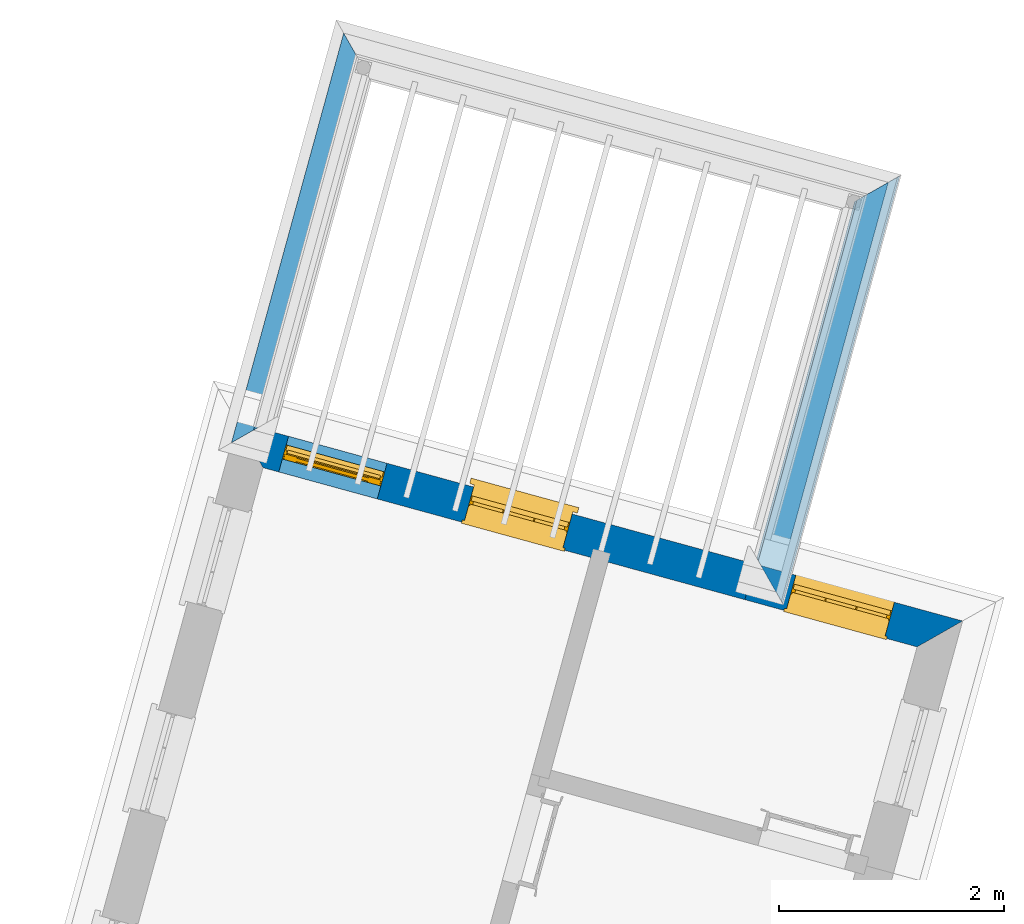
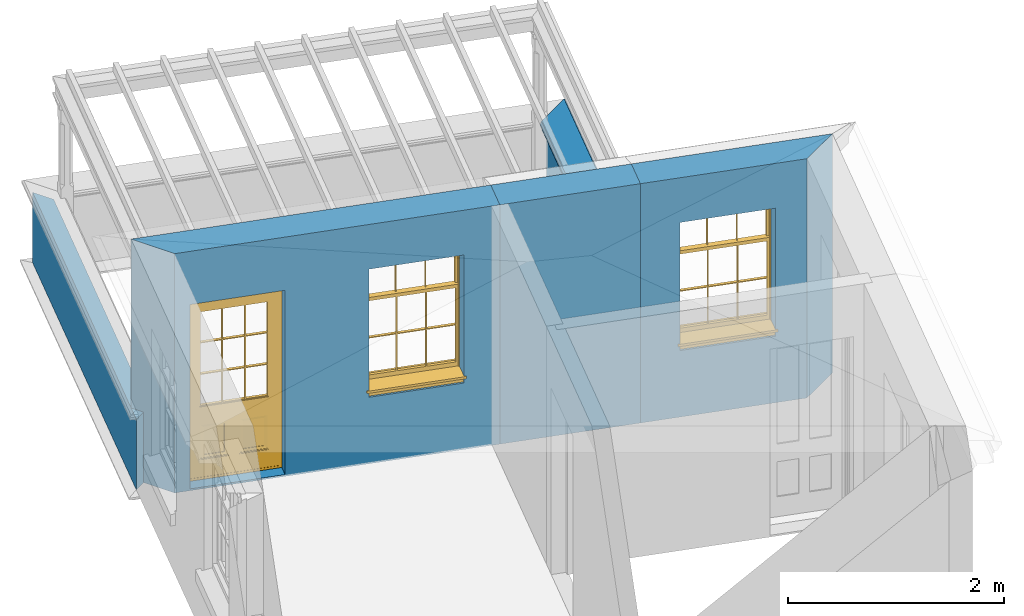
# One storey, part 3 of 4: 6 walls, 2 windows, 1 door, 3 openings.
"""IFC4 building model written with IfcOpenShell, lengths in metres."""

from ifc_helpers import new_model, si_unit, frame, origin, origin_with_axes, place, context, subcontext, project, spatial, polyline, outline, extrude, clip, halfspace, faceted_brep, source, transform, mapped, material, layer, layer_set, layer_usage, material_profile, profile_set, profile_usage, type_object, type_shapes, element, fill, save


model = new_model("IFC4")

# Units and contexts
model_context = context("Model", 3, world=origin_with_axes())
body_context = subcontext(model_context, "Body", "Model", "MODEL_VIEW")
ifc_project = project(units=[si_unit("PLANEANGLEUNIT", "RADIAN"), si_unit("MASSUNIT", "GRAM", prefix="KILO"), si_unit("FORCEUNIT", "NEWTON", prefix="KILO"), si_unit("LENGTHUNIT", "METRE"), si_unit("AREAUNIT", "SQUARE_METRE"), si_unit("VOLUMEUNIT", "CUBIC_METRE")], contexts=[model_context, model_context])

# Sites, building, storey
site_1_placement = place(None, origin_with_axes())
site_1 = spatial("IfcSite", under=ifc_project, at=site_1_placement, Name="Tamar")
site_2_placement = place(site_1_placement, origin_with_axes())
site_2 = spatial("IfcSite", under=site_1, at=site_2_placement, Name="Site plot-28", CompositionType="ELEMENT")
building_placement = place(None, origin_with_axes())
building = spatial("IfcBuilding", under=site_2, at=building_placement, Name="Building plot-28", CompositionType="ELEMENT")
storey_placement = place(None, frame((0.0, 0.0, 29.85), z_axis=(0.0, 0.0, 1.0), x_axis=(1.0, 0.0, 0.0)))
storey = spatial("IfcBuildingStorey", under=building, at=storey_placement, Name="plot-28 2", CompositionType="ELEMENT", Elevation=29.85)

# Wall, opening, window
ifc_material = material(Name="Masonry")
ifc_layer = layer(ifc_material, 0.33, ventilated=False)
ifc_layer_set = layer_set([ifc_layer], Name="exterior_0.08_0.25")
ifc_layer_usage = layer_usage(ifc_layer_set, "AXIS2", "POSITIVE", -0.25)
wall_type_1 = type_object("IfcWallType", Name="exterior_0.08_0.25", PredefinedType="SOLIDWALL", material=ifc_layer_set)
wall_1_placement = place(storey_placement, frame((266.580114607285, 263.559173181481, 0.0), z_axis=(0.0, 0.0, 1.0), x_axis=(-0.964452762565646, 0.264255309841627, 0.0)))
wall_1 = element("IfcWall", 1, at=wall_1_placement, inside=storey, type_object=wall_type_1, material=ifc_layer_usage, Name="exterior", context=body_context, shape_type="SweptSolid", body=[
    extrude(outline(polyline([(0.0799999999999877, 0.0800000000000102), (-0.24999999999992, -0.25000000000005), (1.67093948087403, -0.24999999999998), (1.67093948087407, 0.0799999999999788), (0.0799999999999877, 0.0800000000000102)])), origin_with_axes(), (0.0, 0.0, 1.0), 2.7),
])
opening_1_placement = place(wall_1_placement, frame((0.380469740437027, 0.0, 0.75)))
opening_1 = element("IfcOpeningElement", 2, at=opening_1_placement, cuts=wall_1, Name="My Opening", ObjectType="Opening", context=body_context, shape_type="SweptSolid", body=[
    extrude(outline(polyline([(0.0, -0.270000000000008), (0.909999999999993, -0.270000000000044), (0.910000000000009, 1.10000000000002), (1.63202784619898e-14, 1.10000000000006), (0.0, -0.270000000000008)])), origin_with_axes(), (0.0, 0.0, 1.0), 1.445),
])
window_type = type_object("IfcWindowType", Name="sash_shorter", PartitioningType="DOUBLE_PANEL_HORIZONTAL", PredefinedType="NOTDEFINED")
shared_shape_1 = source(origin(), body_context, "Body", "Brep", [
    faceted_brep([(0.876875, 0.145, 0.999097), (0.876875, 0.145, 1.411875), (0.9, 0.145, 1.435), (0.033125, 0.145, 1.411875), (0.033125, 0.145, 0.999097), (0.01, 0.145, 1.435), (0.033125, 0.115, 1.411875), (0.01, 0.115, 1.435), (0.033125, 0.115, 0.999097), (0.876875, 0.115, 1.411875), (0.876875, 0.115, 0.999097), (0.9, 0.115, 1.435), (0.033125, 0.145, 0.960972), (0.01, 0.145, 0.960972), (0.033125, 0.145, 0.548195), (0.876875, 0.145, 0.960972), (0.876875, 0.145, 0.548195), (0.9, 0.145, 0.960972), (0.876875, 0.145, 0.538195), (0.876875, 0.145, 0.125417), (0.9, 0.145, 0.077167), (0.033125, 0.145, 0.125417), (0.033125, 0.145, 0.538195), (0.01, 0.145, 0.077167), (0.9, 0.115, 0.960972), (0.01, 0.115, 0.960972), (-0.0425, 0.0, 0.01), (-0.0425, -0.05, 0.001667), (0.0, 0.0, 0.01), (0.9525, 0.0, 0.01), (0.91, 0.0, 0.01), (0.9525, -0.05, 0.001667), (-0.02, 0.33, 0.077167), (0.0, 0.33, 0.077167), (-0.02, 0.36, 0.077167), (0.0, 0.19, 0.077167), (0.01, 0.19, 0.077167), (0.91, 0.19, 0.077167), (0.91, 0.33, 0.077167), (0.9, 0.19, 0.077167), (0.93, 0.33, 0.077167), (0.93, 0.36, 0.077167), (0.01, 0.145, 0.999097), (0.01, 0.175, 0.999097), (0.9, 0.145, 0.999097), (0.9, 0.175, 0.999097), (0.876875, 0.175, 0.125417), (0.876875, 0.175, 0.538195), (0.9, 0.175, 0.077167), (0.876875, 0.175, 0.548195), (0.876875, 0.175, 0.960972), (0.033125, 0.175, 0.125417), (0.01, 0.175, 0.077167), (0.033125, 0.175, 0.538195), (0.033125, 0.175, 0.960972), (0.033125, 0.175, 0.548195), (-0.02, 0.33, 0.052167), (-0.02, 0.36, 0.052167), (0.93, 0.36, 0.052167), (0.93, 0.33, 0.052167), (0.91, 0.33, 0.052167), (0.0, 0.33, 0.052167), (0.91, 0.1, 0.026667), (0.0, 0.1, 0.026667), (-0.0425, -0.05, -0.123333), (0.9525, -0.05, -0.123333), (-0.0425, 0.0, -0.123333), (0.9525, 0.0, -0.123333), (0.01, 0.19, 1.435), (0.9, 0.19, 1.435), (0.0, 0.19, 1.445), (0.91, 0.19, 1.445), (0.01, 0.1, 0.077167), (0.9, 0.1, 0.077167), (0.592292, 0.145, 0.125417), (0.592292, 0.175, 0.125417), (0.317708, 0.175, 0.125417), (0.317708, 0.145, 0.125417), (0.592292, 0.145, 0.548195), (0.317708, 0.145, 0.548195), (0.317708, 0.145, 0.538195), (0.592292, 0.145, 0.538195), (0.592292, 0.175, 0.548195), (0.317708, 0.175, 0.548195), (0.602292, 0.175, 0.548195), (0.602292, 0.145, 0.548195), (0.317708, 0.175, 0.538195), (0.307708, 0.175, 0.125417), (0.307708, 0.175, 0.538195), (0.602292, 0.175, 0.538195), (0.602292, 0.175, 0.125417), (0.592292, 0.175, 0.538195), (0.307708, 0.175, 0.548195), (0.317708, 0.175, 0.960972), (0.307708, 0.175, 0.960972), (0.602292, 0.175, 0.960972), (0.592292, 0.175, 0.960972), (0.307708, 0.145, 0.538195), (0.307708, 0.145, 0.125417), (0.307708, 0.145, 0.548195), (0.307708, 0.145, 0.960972), (0.592292, 0.145, 0.960972), (0.317708, 0.145, 0.960972), (0.602292, 0.145, 0.960972), (0.602292, 0.145, 0.538195), (0.602292, 0.145, 0.125417), (0.317708, 0.115, 1.411875), (0.307708, 0.115, 1.411875), (0.307708, 0.115, 0.999097), (0.317708, 0.115, 0.999097), (0.602292, 0.115, 1.411875), (0.592292, 0.115, 1.411875), (0.592292, 0.115, 0.999097), (0.602292, 0.115, 0.999097), (0.317708, 0.145, 0.999097), (0.307708, 0.145, 0.999097), (0.307708, 0.145, 1.411875), (0.317708, 0.145, 1.411875), (0.602292, 0.145, 0.999097), (0.592292, 0.145, 0.999097), (0.592292, 0.145, 1.411875), (0.602292, 0.145, 1.411875), (0.91, 0.1, 1.445), (0.9, 0.1, 1.435), (0.01, 0.1, 1.435), (0.0, 0.1, 1.445), (0.91, 0.0, 0.0), (0.0, 0.0, 0.0), (0.91, 0.33, 0.0), (0.0, 0.33, 0.0)], [[[0, 1, 2]], [[3, 4, 5]], [[6, 7, 8]], [[9, 10, 11]], [[12, 13, 14]], [[15, 16, 17]], [[18, 19, 20]], [[21, 22, 23]], [[24, 15, 17]], [[13, 12, 25]], [[26, 27, 28]], [[29, 30, 31]], [[32, 33, 34]], [[35, 36, 33]], [[37, 38, 39]], [[40, 41, 38]], [[42, 4, 43]], [[44, 45, 0]], [[46, 47, 48]], [[49, 50, 45]], [[51, 52, 53]], [[54, 55, 43]], [[38, 33, 36, 39]], [[41, 34, 33, 38]], [[56, 32, 34, 57]], [[57, 34, 41, 58]], [[58, 41, 40, 59]], [[57, 58, 60, 61]], [[52, 48, 39, 36]], [[62, 63, 28, 30]], [[27, 31, 30, 28]], [[27, 64, 65, 31]], [[66, 67, 65, 64]], [[2, 5, 68, 69]], [[68, 70, 71, 69]], [[20, 23, 72, 73]], [[73, 72, 63, 62]], [[74, 75, 76, 77]], [[78, 79, 80, 81]], [[78, 82, 83, 79]], [[16, 49, 84, 85]], [[86, 76, 87, 88]], [[89, 90, 75, 91]], [[92, 88, 53, 55]], [[82, 91, 86, 83]], [[93, 83, 92, 94]], [[95, 84, 82, 96]], [[89, 84, 49, 47]], [[97, 88, 87, 98]], [[22, 53, 88, 97]], [[81, 91, 75, 74]], [[80, 86, 91, 81]], [[77, 76, 86, 80]], [[99, 92, 55, 14]], [[100, 94, 92, 99]], [[101, 96, 82, 78]], [[79, 83, 93, 102]], [[85, 84, 95, 103]], [[104, 89, 47, 18]], [[105, 90, 89, 104]], [[104, 18, 16, 85]], [[80, 97, 98, 77]], [[104, 81, 74, 105]], [[103, 101, 78, 85]], [[99, 14, 22, 97]], [[102, 100, 99, 79]], [[106, 107, 108, 109]], [[110, 111, 112, 113]], [[114, 115, 116, 117]], [[118, 119, 120, 121]], [[107, 116, 115, 108]], [[111, 120, 119, 112]], [[109, 114, 117, 106]], [[113, 118, 121, 110]], [[85, 78, 81, 104]], [[84, 89, 91, 82]], [[83, 86, 88, 92]], [[79, 99, 97, 80]], [[109, 112, 119, 114]], [[102, 93, 96, 101]], [[106, 117, 120, 111]], [[98, 87, 51, 21]], [[6, 3, 116, 107]], [[110, 121, 1, 9]], [[19, 46, 90, 105]], [[26, 66, 64, 27]], [[29, 31, 65, 67]], [[25, 24, 112, 109]], [[11, 7, 106, 111]], [[75, 48, 52, 76]], [[43, 45, 96, 93]], [[45, 43, 114, 119]], [[5, 2, 120, 117]], [[24, 25, 102, 101]], [[42, 5, 4]], [[2, 44, 0]], [[49, 45, 48, 47]], [[52, 43, 55, 53]], [[14, 13, 23, 22]], [[20, 17, 16, 18]], [[24, 11, 10]], [[25, 8, 7]], [[8, 4, 3, 6]], [[9, 1, 0, 10]], [[15, 50, 49, 16]], [[18, 47, 46, 19]], [[21, 51, 53, 22]], [[14, 55, 54, 12]], [[44, 2, 69, 45]], [[68, 5, 42, 43]], [[36, 35, 70, 68]], [[39, 69, 71, 37]], [[62, 122, 123, 73]], [[63, 72, 124, 125]], [[8, 108, 115, 4]], [[113, 10, 0, 118]], [[94, 100, 12, 54]], [[17, 20, 73, 24]], [[72, 23, 13, 25]], [[52, 36, 68, 43]], [[69, 39, 48, 45]], [[11, 24, 73, 123]], [[7, 124, 72, 25]], [[23, 77, 98]], [[98, 21, 23]], [[105, 74, 20]], [[20, 19, 105]], [[20, 74, 77, 23]], [[113, 112, 24]], [[24, 10, 113]], [[25, 109, 108]], [[108, 8, 25]], [[110, 9, 11]], [[11, 111, 110]], [[7, 6, 107]], [[107, 106, 7]], [[5, 117, 116]], [[116, 3, 5]], [[121, 120, 2]], [[2, 1, 121]], [[11, 123, 124, 7]], [[122, 125, 124, 123]], [[43, 93, 94]], [[94, 54, 43]], [[96, 45, 95]], [[50, 95, 45]], [[15, 103, 95, 50]], [[48, 75, 90]], [[90, 46, 48]], [[87, 76, 52]], [[52, 51, 87]], [[103, 15, 24]], [[24, 101, 103]], [[100, 102, 25]], [[25, 12, 100]], [[115, 114, 43]], [[43, 4, 115]], [[118, 0, 45]], [[45, 119, 118]], [[71, 70, 125, 122]], [[70, 35, 63, 125]], [[122, 62, 37, 71]], [[126, 67, 66, 127]], [[60, 58, 59]], [[38, 60, 59, 40]], [[61, 56, 57]], [[32, 56, 61, 33]], [[61, 60, 128, 129]], [[62, 60, 38, 37]], [[126, 128, 60, 62]], [[33, 61, 63, 35]], [[61, 129, 127, 63]], [[128, 126, 127, 129]], [[28, 127, 66, 26]], [[63, 127, 28]], [[29, 67, 126, 30]], [[30, 126, 62]]]),
])
type_shapes(window_type, [shared_shape_1])
window_1_placement = place(storey_placement, frame((266.284518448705, 263.920116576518, 0.75), z_axis=(0.0, 0.0, 1.0), x_axis=(-0.877652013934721, 0.240472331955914, 0.0)))
window_1 = element("IfcWindow", 3, at=window_1_placement, inside=storey, type_object=window_type, Name="toilet outside window", OverallHeight=1.445, OverallWidth=0.91, context=body_context, shape_type="MappedRepresentation", body=[
    mapped(shared_shape_1, transform((0.0, 0.0, 0.0), scale=1.0)),
])
fill(opening_1, window_1)

# Wall
wall_2_placement = place(storey_placement, frame((264.968572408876, 264.000727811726, 0.0), z_axis=(0.0, 0.0, 1.0), x_axis=(-0.964452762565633, 0.264255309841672, 0.0)))
element("IfcWall", 4, at=wall_2_placement, inside=storey, type_object=wall_type_1, material=ifc_layer_usage, Name="exterior", context=body_context, shape_type="SweptSolid", body=[
    extrude(outline(polyline([(1.99356223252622e-14, 0.0799999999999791), (-1.30298124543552e-14, -0.24999999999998), (1.34303167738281, -0.24999999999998), (1.34303167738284, 0.0799999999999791), (1.99356223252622e-14, 0.0799999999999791)])), origin_with_axes(), (0.0, 0.0, 1.0), 2.7),
])

# Wall, openings, door, window
wall_3_placement = place(storey_placement, frame((263.673281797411, 264.35563106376, 0.0), z_axis=(0.0, 0.0, 1.0), x_axis=(-0.964452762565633, 0.264255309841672, 0.0)))
wall_3 = element("IfcWall", 5, at=wall_3_placement, inside=storey, type_object=wall_type_1, material=ifc_layer_usage, Name="exterior", context=body_context, shape_type="SweptSolid", body=[
    extrude(outline(polyline([(1.99000951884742e-14, 0.0799999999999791), (-1.29187901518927e-14, -0.24999999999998), (3.43671452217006, -0.249999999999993), (3.10671452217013, 0.0799999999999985), (1.99000951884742e-14, 0.0799999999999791)])), origin_with_axes(), (0.0, 0.0, 1.0), 2.7),
])
opening_2_placement = place(wall_3_placement, frame((0.34167863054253, 0.0, 0.75)))
opening_2 = element("IfcOpeningElement", 6, at=opening_2_placement, cuts=wall_3, Name="My Opening", ObjectType="Opening", context=body_context, shape_type="SweptSolid", body=[
    extrude(outline(polyline([(0.0, -0.270000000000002), (0.910000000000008, -0.270000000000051), (0.90999999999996, 1.10000000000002), (-4.8017145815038e-14, 1.10000000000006), (0.0, -0.270000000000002)])), origin_with_axes(), (0.0, 0.0, 1.0), 1.445),
])
opening_3_placement = place(wall_3_placement, frame((2.05167863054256, 0.0, 0.0199999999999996)))
opening_3 = element("IfcOpeningElement", 7, at=opening_3_placement, cuts=wall_3, Name="My Opening", ObjectType="Opening", context=body_context, shape_type="SweptSolid", body=[
    extrude(outline(polyline([(0.0, -0.27000000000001), (0.909999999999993, -0.270000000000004), (0.909999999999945, 1.10000000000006), (-4.79616346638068e-14, 1.10000000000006), (0.0, -0.27000000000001)])), origin_with_axes(), (0.0, 0.0, 1.0), 2.08),
])
door_type = type_object("IfcDoorType", Name="door_panelled", OperationType="SINGLE_SWING_LEFT", PredefinedType="NOTDEFINED")
shared_shape_2 = source(origin(), body_context, "Body", "Brep", [
    faceted_brep([(0.545, 0.195, 0.265), (0.745, 0.195, 0.265), (0.745, 0.2, 0.265), (0.545, 0.2, 0.265), (0.745, 0.2, 0.58), (0.545, 0.2, 0.58), (0.545, 0.195, 0.58), (0.515, 0.19, 0.235), (0.775, 0.19, 0.235), (0.745, 0.195, 0.58), (0.515, 0.19, 0.61), (0.515, 0.185, 0.235), (0.775, 0.185, 0.235), (0.775, 0.19, 0.61), (0.515, 0.185, 0.61), (0.785, 0.185, 0.225), (0.505, 0.185, 0.225), (0.775, 0.185, 0.61), (0.505, 0.185, 0.62), (0.785, 0.185, 0.62), (0.505, 0.18, 0.225), (0.785, 0.18, 0.225), (0.505, 0.18, 0.62), (0.785, 0.18, 0.62), (0.883, 0.18, 0.075), (0.898, 0.18, 0.075), (0.405, 0.18, 0.62), (0.405, 0.18, 0.225), (0.027, 0.18, 0.075), (0.785, 0.18, 0.82), (0.125, 0.18, 0.82), (0.405, 0.185, 0.62), (0.405, 0.185, 0.225), (0.898, 0.18, 2.068), (0.027, 0.17, 0.075), (0.883, 0.17, 0.075), (0.125, 0.18, 0.225), (0.012, 0.18, 0.075), (0.785, 0.19, 0.82), (0.125, 0.19, 0.82), (0.125, 0.18, 0.62), (0.125, 0.185, 0.62), (0.395, 0.185, 0.61), (0.395, 0.185, 0.235), (0.125, 0.185, 0.225), (0.785, 0.18, 1.895), (0.027, 0.14, 0.045), (0.883, 0.14, 0.045), (0.558333, 0.19, 0.83), (0.351667, 0.19, 0.83), (0.125, 0.18, 1.895), (0.125, 0.19, 1.895), (0.785, 0.19, 1.895), (0.012, 0.18, 2.068), (0.135, 0.185, 0.61), (0.395, 0.19, 0.61), (0.395, 0.19, 0.235), (0.135, 0.185, 0.235), (0.027, 0.14, 0.027), (0.883, 0.14, 0.027), (0.568333, 0.19, 0.83), (0.558333, 0.22, 0.83), (0.351667, 0.22, 0.83), (0.341667, 0.19, 0.83), (0.135, 0.19, 1.185), (0.135, 0.19, 1.53), (0.775, 0.19, 1.53), (0.775, 0.19, 1.185), (0.135, 0.19, 0.61), (0.365, 0.195, 0.58), (0.365, 0.195, 0.265), (0.135, 0.19, 0.235), (0.568333, 0.19, 1.175), (0.558333, 0.19, 1.175), (0.775, 0.19, 0.83), (0.558333, 0.22, 1.175), (0.785, 0.22, 0.82), (0.125, 0.22, 0.82), (0.351667, 0.22, 1.175), (0.351667, 0.19, 1.175), (0.341667, 0.19, 1.175), (0.135, 0.19, 0.83), (0.135, 0.19, 1.175), (0.135, 0.22, 1.185), (0.135, 0.22, 1.53), (0.135, 0.19, 1.54), (0.351667, 0.19, 1.885), (0.558333, 0.19, 1.885), (0.775, 0.22, 1.53), (0.775, 0.22, 1.185), (0.775, 0.19, 1.175), (0.775, 0.19, 1.54), (0.165, 0.195, 0.58), (0.365, 0.2, 0.58), (0.365, 0.2, 0.265), (0.165, 0.195, 0.265), (0.568333, 0.22, 0.83), (0.568333, 0.22, 1.175), (0.568333, 0.19, 1.185), (0.558333, 0.19, 1.185), (0.775, 0.22, 0.83), (0.785, 0.23, 0.82), (0.125, 0.23, 0.82), (0.341667, 0.22, 0.83), (0.341667, 0.22, 1.175), (0.351667, 0.19, 1.185), (0.341667, 0.19, 1.185), (0.135, 0.22, 0.83), (0.341667, 0.22, 1.185), (0.125, 0.22, 1.895), (0.341667, 0.22, 1.53), (0.341667, 0.19, 1.53), (0.135, 0.19, 1.885), (0.341667, 0.19, 1.54), (0.341667, 0.19, 1.885), (0.558333, 0.22, 1.885), (0.351667, 0.22, 1.885), (0.568333, 0.19, 1.885), (0.785, 0.22, 1.895), (0.568333, 0.22, 1.185), (0.568333, 0.19, 1.53), (0.568333, 0.22, 1.53), (0.568333, 0.19, 1.54), (0.775, 0.19, 1.885), (0.165, 0.2, 0.58), (0.165, 0.2, 0.265), (0.775, 0.22, 1.175), (0.558333, 0.19, 1.53), (0.351667, 0.22, 1.185), (0.558333, 0.22, 1.185), (0.505, 0.23, 0.62), (0.405, 0.23, 0.62), (0.125, 0.23, 1.895), (0.785, 0.23, 1.895), (0.351667, 0.19, 1.53), (0.135, 0.22, 1.175), (0.135, 0.22, 1.54), (0.341667, 0.22, 1.54), (0.135, 0.22, 1.885), (0.351667, 0.19, 1.54), (0.558333, 0.22, 1.54), (0.558333, 0.19, 1.54), (0.351667, 0.22, 1.54), (0.775, 0.22, 1.54), (0.568333, 0.22, 1.54), (0.775, 0.22, 1.885), (0.558333, 0.22, 1.53), (0.405, 0.23, 0.225), (0.505, 0.23, 0.225), (0.125, 0.23, 0.62), (0.785, 0.23, 0.62), (0.012, 0.23, 2.068), (0.898, 0.23, 2.068), (0.351667, 0.22, 1.53), (0.341667, 0.22, 1.885), (0.568333, 0.22, 1.885), (0.405, 0.225, 0.225), (0.405, 0.225, 0.62), (0.505, 0.225, 0.62), (0.505, 0.225, 0.225), (0.898, 0.23, 0.027), (0.012, 0.23, 0.027), (0.125, 0.225, 0.62), (0.785, 0.225, 0.62), (0.395, 0.225, 0.235), (0.395, 0.225, 0.61), (0.125, 0.23, 0.225), (0.125, 0.225, 0.225), (0.515, 0.225, 0.61), (0.515, 0.225, 0.235), (0.785, 0.23, 0.225), (0.785, 0.225, 0.225), (0.135, 0.225, 0.61), (0.775, 0.225, 0.61), (0.135, 0.225, 0.235), (0.395, 0.22, 0.235), (0.395, 0.22, 0.61), (0.515, 0.22, 0.61), (0.515, 0.22, 0.235), (0.775, 0.225, 0.235), (0.135, 0.22, 0.61), (0.775, 0.22, 0.61), (0.135, 0.22, 0.235), (0.365, 0.215, 0.265), (0.365, 0.215, 0.58), (0.545, 0.215, 0.58), (0.545, 0.215, 0.265), (0.775, 0.22, 0.235), (0.165, 0.215, 0.58), (0.745, 0.215, 0.58), (0.165, 0.215, 0.265), (0.365, 0.21, 0.58), (0.365, 0.21, 0.265), (0.545, 0.21, 0.58), (0.545, 0.21, 0.265), (0.745, 0.215, 0.265), (0.165, 0.21, 0.58), (0.745, 0.21, 0.58), (0.165, 0.21, 0.265), (0.745, 0.21, 0.265), (0.885, 0.178, 0.025), (0.025, 0.178, 0.025), (0.025, 0.15, 0.025), (0.885, 0.15, 0.025), (0.9, 0.23, 0.025), (0.01, 0.23, 0.025), (0.9, 0.178, 0.025), (0.91, 0.23, 0.0), (0.0, 0.23, 0.0), (0.01, 0.178, 0.025), (0.9, 0.178, 2.07), (0.9, 0.23, 2.07), (0.885, 0.178, 2.055), (0.91, 0.23, 2.08), (0.01, 0.23, 2.07), (0.0, 0.23, 2.08), (0.01, 0.178, 2.07), (0.025, 0.178, 2.055), (0.0, 0.1, 2.08), (0.91, 0.1, 2.08), (0.01, 0.1, 2.07), (0.9, 0.1, 2.07), (0.01, 0.15, 2.07), (0.9, 0.15, 2.07), (0.0, 0.1, 0.0), (0.91, 0.1, 0.0), (0.01, 0.1, 0.025), (0.9, 0.1, 0.025), (0.01, 0.15, 0.025), (0.025, 0.15, 2.055), (0.9, 0.15, 0.025), (0.885, 0.15, 2.055), (0.898, 0.18, 0.027), (0.012, 0.18, 0.027), (0.883, 0.18, 0.027), (0.027, 0.18, 0.027)], [[[0, 1, 2, 3]], [[2, 4, 5, 3]], [[0, 3, 5, 6]], [[1, 0, 7, 8]], [[9, 4, 2, 1]], [[9, 6, 5, 4]], [[0, 6, 10, 7]], [[8, 7, 11, 12]], [[8, 13, 9, 1]], [[13, 10, 6, 9]], [[7, 10, 14, 11]], [[15, 12, 11, 16]], [[12, 17, 13, 8]], [[17, 14, 10, 13]], [[18, 16, 11, 14]], [[15, 19, 17, 12]], [[15, 16, 20, 21]], [[14, 17, 19, 18]], [[16, 18, 22, 20]], [[21, 23, 19, 15]], [[24, 25, 21, 20]], [[23, 22, 18, 19]], [[20, 22, 26, 27]], [[23, 21, 25]], [[28, 24, 20, 27]], [[22, 23, 29]], [[29, 30, 26, 22]], [[27, 26, 31, 32]], [[23, 25, 33, 29]], [[34, 35, 24, 28]], [[28, 27, 36, 37]], [[38, 39, 30, 29]], [[26, 30, 40]], [[26, 40, 41, 31]], [[42, 43, 32, 31]], [[32, 44, 36, 27]], [[33, 45, 29]], [[46, 47, 35, 34]], [[36, 40, 37]], [[39, 38, 48, 49]], [[50, 30, 39, 51]], [[29, 45, 52, 38]], [[53, 37, 40, 30]], [[44, 41, 40, 36]], [[31, 41, 54, 42]], [[43, 42, 55, 56]], [[57, 44, 32, 43]], [[50, 45, 33, 53]], [[47, 46, 58, 59]], [[60, 48, 38]], [[49, 48, 61, 62]], [[49, 63, 39]], [[50, 53, 30]], [[51, 39, 64, 65]], [[45, 50, 51, 52]], [[66, 67, 38, 52]], [[57, 54, 41, 44]], [[42, 54, 68, 55]], [[56, 55, 69, 70]], [[56, 71, 57, 43]], [[60, 72, 73, 48]], [[60, 38, 74]], [[48, 73, 75, 61]], [[76, 77, 62, 61]], [[62, 78, 79, 49]], [[49, 79, 80, 63]], [[63, 81, 39]], [[82, 64, 39]], [[65, 64, 83, 84]], [[85, 51, 65]], [[52, 51, 86, 87]], [[88, 89, 67, 66]], [[90, 38, 67]], [[91, 66, 52]], [[71, 68, 54, 57]], [[55, 68, 92, 69]], [[69, 93, 94, 70]], [[70, 95, 71, 56]], [[96, 97, 72, 60]], [[73, 72, 98, 99]], [[74, 38, 90]], [[100, 96, 60, 74]], [[75, 73, 79, 78]], [[61, 75, 97, 96]], [[101, 102, 77, 76]], [[77, 103, 62]], [[96, 76, 61]], [[103, 104, 78, 62]], [[80, 79, 105, 106]], [[63, 80, 104, 103]], [[81, 63, 103, 107]], [[81, 82, 39]], [[106, 64, 82, 80]], [[106, 108, 83, 64]], [[84, 83, 77, 109]], [[110, 111, 65, 84]], [[112, 51, 85]], [[113, 85, 65, 111]], [[114, 86, 51]], [[115, 87, 86, 116]], [[117, 52, 87]], [[118, 76, 89, 88]], [[119, 98, 67, 89]], [[120, 121, 88, 66]], [[67, 98, 72, 90]], [[91, 122, 120, 66]], [[91, 52, 123]], [[95, 92, 68, 71]], [[69, 92, 124, 93]], [[94, 93, 124, 125]], [[94, 125, 95, 70]], [[72, 97, 126, 90]], [[127, 99, 98, 120]], [[99, 105, 79, 73]], [[74, 90, 126, 100]], [[96, 100, 76]], [[128, 129, 75, 78]], [[97, 75, 129, 119]], [[130, 131, 102, 101]], [[109, 77, 102, 132]], [[133, 101, 76, 118]], [[77, 107, 103]], [[78, 104, 108, 128]], [[111, 106, 105, 134]], [[104, 80, 82, 135]], [[107, 135, 82, 81]], [[110, 108, 106, 111]], [[104, 135, 83, 108]], [[83, 135, 77]], [[136, 84, 109]], [[110, 84, 136, 137]], [[114, 51, 112]], [[85, 136, 138, 112]], [[113, 137, 136, 85]], [[111, 134, 139, 113]], [[86, 114, 113, 139]], [[140, 141, 87, 115]], [[139, 142, 116, 86]], [[109, 118, 115, 116]], [[117, 123, 52]], [[117, 87, 141, 122]], [[126, 89, 76]], [[143, 118, 88]], [[120, 98, 119, 121]], [[119, 89, 126, 97]], [[144, 143, 88, 121]], [[144, 122, 91, 143]], [[127, 120, 122, 141]], [[143, 91, 123, 145]], [[124, 92, 95, 125]], [[146, 129, 99, 127]], [[99, 129, 128, 105]], [[100, 126, 76]], [[121, 119, 129, 146]], [[147, 131, 130, 148]], [[131, 149, 102]], [[130, 101, 150]], [[102, 151, 132]], [[118, 109, 132, 133]], [[101, 133, 152]], [[107, 77, 135]], [[153, 128, 108, 110]], [[134, 105, 128, 153]], [[109, 138, 136]], [[153, 110, 137, 142]], [[154, 114, 112, 138]], [[137, 113, 114, 154]], [[141, 139, 134, 127]], [[141, 140, 142, 139]], [[144, 140, 115, 155]], [[142, 137, 154, 116]], [[155, 115, 118]], [[116, 154, 109]], [[117, 155, 145, 123]], [[122, 144, 155, 117]], [[143, 145, 118]], [[121, 146, 140, 144]], [[146, 127, 134, 153]], [[156, 157, 131, 147]], [[148, 130, 158, 159]], [[148, 160, 161, 147]], [[157, 162, 149, 131]], [[161, 151, 102, 149]], [[101, 152, 160, 150]], [[163, 158, 130, 150]], [[151, 152, 133, 132]], [[154, 138, 109]], [[142, 140, 146, 153]], [[145, 155, 118]], [[157, 156, 164, 165]], [[147, 166, 167, 156]], [[168, 169, 159, 158]], [[170, 148, 159, 171]], [[148, 170, 160]], [[166, 147, 161]], [[172, 162, 157, 165]], [[166, 149, 162, 167]], [[166, 161, 149]], [[150, 160, 170]], [[163, 173, 168, 158]], [[171, 163, 150, 170]], [[174, 164, 156, 167]], [[175, 176, 165, 164]], [[169, 168, 177, 178]], [[171, 159, 169, 179]], [[167, 162, 172, 174]], [[176, 180, 172, 165]], [[179, 173, 163, 171]], [[181, 177, 168, 173]], [[164, 174, 182, 175]], [[183, 184, 176, 175]], [[178, 177, 185, 186]], [[179, 169, 178, 187]], [[174, 172, 180, 182]], [[184, 188, 180, 176]], [[187, 181, 173, 179]], [[189, 185, 177, 181]], [[175, 182, 190, 183]], [[191, 184, 183, 192]], [[185, 193, 194, 186]], [[187, 178, 186, 195]], [[182, 180, 188, 190]], [[191, 196, 188, 184]], [[195, 189, 181, 187]], [[197, 193, 185, 189]], [[183, 190, 198, 192]], [[198, 196, 191, 192]], [[194, 193, 197, 199]], [[195, 186, 194, 199]], [[188, 196, 198, 190]], [[197, 189, 195, 199]], [[200, 201, 202, 203]], [[201, 200, 204, 205]], [[206, 204, 200]], [[204, 207, 208, 205]], [[209, 201, 205]], [[210, 211, 204, 206]], [[206, 200, 212, 210]], [[211, 213, 207, 204]], [[214, 205, 208, 215]], [[216, 217, 201, 209]], [[205, 214, 216, 209]], [[216, 214, 211, 210]], [[210, 212, 217, 216]], [[214, 215, 213, 211]], [[218, 219, 213, 215]], [[219, 218, 220, 221]], [[221, 220, 222, 223]], [[215, 208, 224, 218]], [[225, 224, 208, 207]], [[224, 226, 220, 218]], [[224, 225, 227, 226]], [[219, 225, 207, 213]], [[228, 222, 220, 226]], [[219, 221, 227, 225]], [[226, 227, 203, 202]], [[202, 229, 222, 228]], [[228, 226, 202]], [[227, 221, 223, 230]], [[230, 203, 227]], [[217, 229, 202, 201]], [[231, 223, 222, 229]], [[230, 223, 231, 203]], [[231, 229, 217, 212]], [[212, 200, 203, 231]], [[33, 152, 151, 53]], [[25, 160, 152, 33]], [[161, 37, 53, 151]], [[232, 160, 25]], [[161, 233, 37]], [[160, 232, 234]], [[24, 234, 232, 25]], [[233, 161, 235]], [[37, 233, 235, 28]], [[161, 160, 234, 235]], [[35, 47, 234, 24]], [[28, 235, 46, 34]], [[58, 235, 234, 59]], [[59, 234, 47]], [[58, 46, 235]]]),
])
type_shapes(door_type, [shared_shape_2])
door_placement = place(storey_placement, frame((261.765883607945, 265.158200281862, 0.0199999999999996), z_axis=(0.0, 0.0, 1.0), x_axis=(-0.877652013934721, 0.240472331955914, 0.0)))
door = element("IfcDoor", 8, at=door_placement, inside=storey, type_object=door_type, Name="bedroom outside door", OverallHeight=2.08, OverallWidth=0.91, context=body_context, shape_type="MappedRepresentation", body=[
    mapped(shared_shape_2, transform((0.0, 0.0, 0.0), scale=1.0)),
])
fill(opening_3, door)
window_2_placement = place(storey_placement, frame((263.415097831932, 264.706323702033, 0.75), z_axis=(0.0, 0.0, 1.0), x_axis=(-0.877652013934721, 0.240472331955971, 0.0)))
window_2 = element("IfcWindow", 9, at=window_2_placement, inside=storey, type_object=window_type, Name="bedroom outside window", OverallHeight=1.445, OverallWidth=0.91, context=body_context, shape_type="MappedRepresentation", body=[
    mapped(shared_shape_1, transform((0.0, 0.0, 0.0), scale=1.0)),
])
fill(opening_2, window_2)

# Walls
ifc_material_profile_1 = material_profile(None, outline(polyline([(0.25, 0.0), (0.25, 0.795), (0.09, 0.795), (0.09, 0.02), (-0.08, 0.02), (-0.08, 0.0), (0.25, 0.0)])))
ifc_profile_set_1 = profile_set([ifc_material_profile_1])
ifc_profile_usage_1 = profile_usage(ifc_profile_set_1)
wall_type_2 = type_object("IfcWallType", Name="parapet_0", PredefinedType="PARAPET", material=ifc_profile_set_1)
wall_4_placement = place(storey_placement, frame((266.182367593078, 268.430716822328, 0.0), z_axis=(-0.26425530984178, -0.964452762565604, 0.0), x_axis=(0.964452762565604, -0.26425530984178, 0.0)))
element("IfcWall", 10, at=wall_4_placement, inside=storey, type_object=wall_type_2, material=ifc_profile_usage_1, Name="parapet_0", context=body_context, shape_type="Clipping", body=[
    clip(clip(extrude(outline(polyline([(0.25, 0.0), (0.25, 0.795), (0.09, 0.795), (0.09, 0.02), (-0.08, 0.02), (-0.08, 0.0), (0.25, 0.0)])), origin_with_axes(), (0.0, 0.0, 1.0), 5.28326696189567), halfspace(frame((0.0, 0.0, 4.28326696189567), z_axis=(0.707106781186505, 0.0, -0.70710678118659), x_axis=(0.0, 1.0, 0.0)), True)), halfspace(frame((0.0, 0.0, 1.0), z_axis=(-0.707106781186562, 0.0, -0.707106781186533), x_axis=(0.0, 1.0, 0.0)), False)),
])
ifc_profile_usage_2 = profile_usage(ifc_profile_set_1)
wall_5_placement = place(storey_placement, frame((260.417510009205, 264.532264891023, 0.0), z_axis=(0.264255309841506, 0.964452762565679, 0.0), x_axis=(-0.964452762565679, 0.264255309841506, 0.0)))
element("IfcWall", 11, at=wall_5_placement, inside=storey, type_object=wall_type_2, material=ifc_profile_usage_2, Name="parapet_0", context=body_context, shape_type="Clipping", body=[
    clip(clip(extrude(outline(polyline([(0.25, 0.0), (0.25, 0.795), (0.09, 0.795), (0.09, 0.02), (-0.08, 0.02), (-0.08, 0.0), (0.25, 0.0)])), origin_with_axes(), (0.0, 0.0, 1.0), 5.28326696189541), halfspace(frame((0.0, 0.0, 4.28326696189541), z_axis=(0.707106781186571, 0.0, -0.707106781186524), x_axis=(0.0, 1.0, 0.0)), True)), halfspace(frame((0.0, 0.0, 1.0), z_axis=(-0.707106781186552, 0.0, -0.707106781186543), x_axis=(0.0, 1.0, 0.0)), False)),
])
ifc_material_profile_2 = material_profile(None, outline(polyline([(0.265, 0.795), (0.268, 0.807), (0.274, 0.816), (0.283, 0.822), (0.295, 0.825), (0.295, 0.84), (0.305, 0.84), (0.317, 0.842), (0.326, 0.849), (0.333, 0.858), (0.335, 0.87), (0.333, 0.882), (0.326, 0.891), (0.317, 0.898), (0.305, 0.9), (0.035, 0.9), (0.023, 0.898), (0.014, 0.891), (0.007, 0.882), (0.005, 0.87), (0.007, 0.858), (0.014, 0.849), (0.023, 0.842), (0.035, 0.84), (0.045, 0.84), (0.045, 0.825), (0.057, 0.822), (0.066, 0.816), (0.072, 0.807), (0.075, 0.795), (0.265, 0.795)])))
ifc_profile_set_2 = profile_set([ifc_material_profile_2])
ifc_profile_usage_3 = profile_usage(ifc_profile_set_2)
wall_type_3 = type_object("IfcWallType", Name="parapet_1", PredefinedType="PARAPET", material=ifc_profile_set_2)
wall_6_placement = place(storey_placement, frame((266.182367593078, 268.430716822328, 0.0), z_axis=(-0.26425530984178, -0.964452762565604, 0.0), x_axis=(0.964452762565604, -0.26425530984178, 0.0)))
element("IfcWall", 12, at=wall_6_placement, inside=storey, type_object=wall_type_3, material=ifc_profile_usage_3, Name="parapet_1", context=body_context, shape_type="Clipping", body=[
    clip(clip(extrude(outline(polyline([(0.265, 0.795), (0.268, 0.807), (0.274, 0.816), (0.283, 0.822), (0.295, 0.825), (0.295, 0.84), (0.305, 0.84), (0.317, 0.842), (0.326, 0.849), (0.333, 0.858), (0.335, 0.87), (0.333, 0.882), (0.326, 0.891), (0.317, 0.898), (0.305, 0.9), (0.035, 0.9), (0.023, 0.898), (0.014, 0.891), (0.007, 0.882), (0.005, 0.87), (0.007, 0.858), (0.014, 0.849), (0.023, 0.842), (0.035, 0.84), (0.045, 0.84), (0.045, 0.825), (0.057, 0.822), (0.066, 0.816), (0.072, 0.807), (0.075, 0.795), (0.265, 0.795)])), origin_with_axes(), (0.0, 0.0, 1.0), 5.28326696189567), halfspace(frame((0.0, 0.0, 4.28326696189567), z_axis=(0.707106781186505, 0.0, -0.70710678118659), x_axis=(0.0, 1.0, 0.0)), True)), halfspace(frame((0.0, 0.0, 1.0), z_axis=(-0.707106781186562, 0.0, -0.707106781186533), x_axis=(0.0, 1.0, 0.0)), False)),
])

save(model, "model.ifc")
